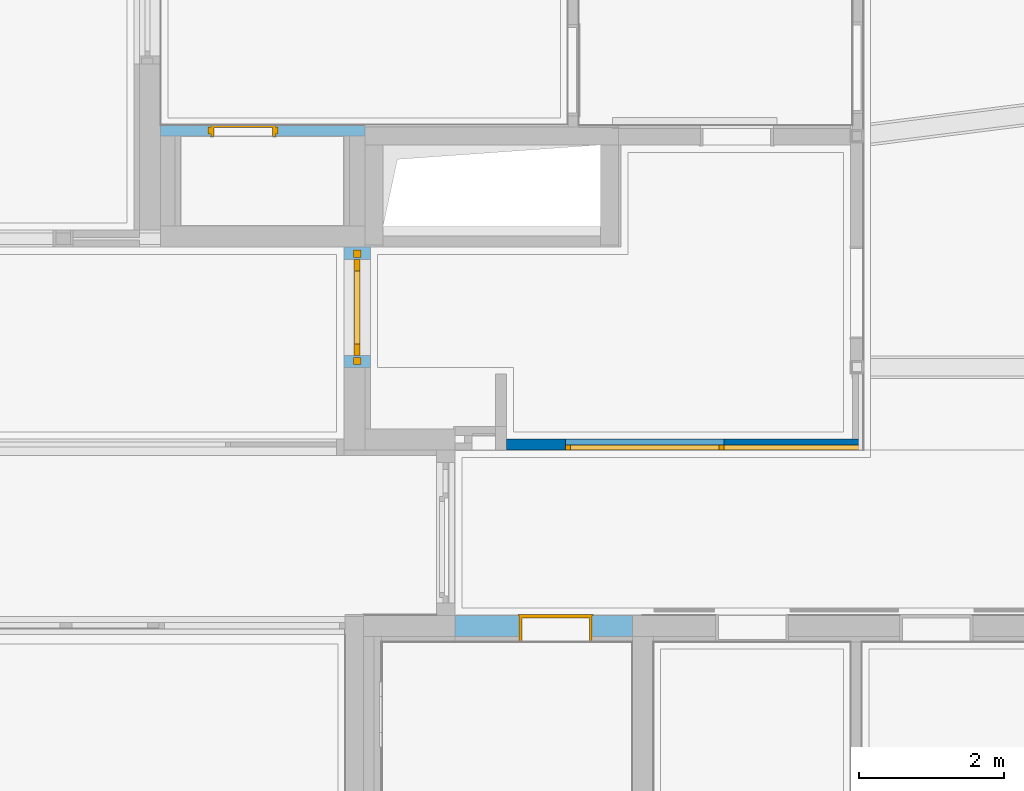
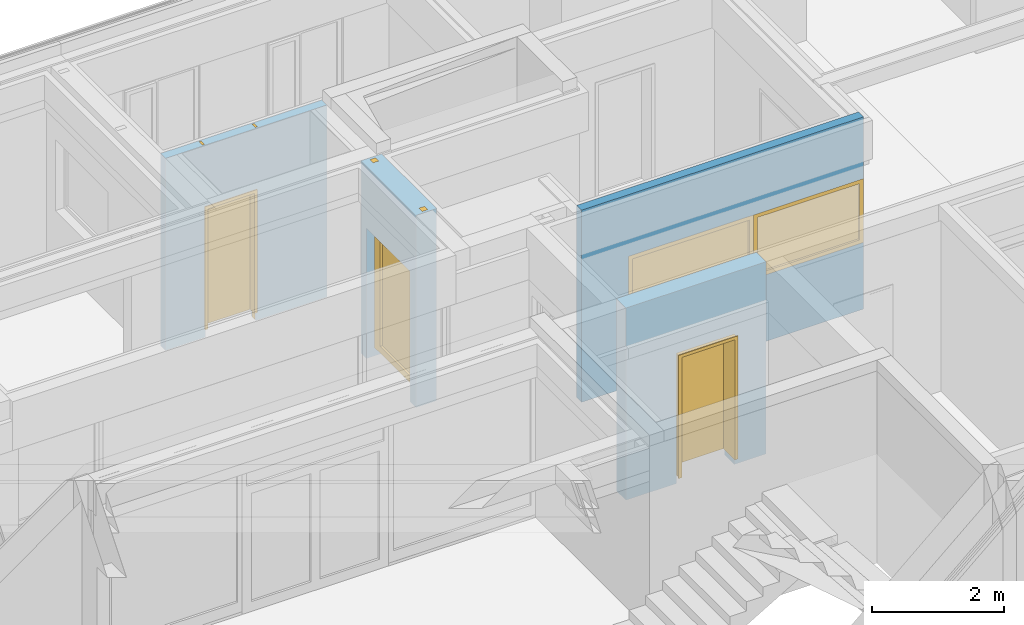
# One storey, part 87 of 222: 3 doors, 2 windows, 1 wall, 5 openings, plus 3 elements that do not belong to this part.
"""IFC4 building model written with IfcOpenShell, lengths in metres."""

from ifc_helpers import new_model, entity, si_unit, converted_unit, derived_unit, frame, frame_2d, origin, origin_with_axes, place, context, subcontext, project, spatial, polyline, rectangle, outline, extrude, closed_shell, open_shell, faceted_brep, surface_model, source, transform, mapped, material, type_object, element, fill, save


model = new_model("IFC4")

# Units and contexts
model_context = context("Model", 3, precision=1e-05, world=origin())
body_context = subcontext(model_context, "Body", "Model", "MODEL_VIEW")
ifc_project = project(units=[si_unit("LENGTHUNIT", "METRE"), si_unit("AREAUNIT", "SQUARE_METRE"), si_unit("VOLUMEUNIT", "CUBIC_METRE"), si_unit("MASSUNIT", "GRAM", prefix="KILO"), converted_unit("PLANEANGLEUNIT", "DEGREE", entity("IfcPlaneAngleMeasure", 0.0174532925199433), si_unit("PLANEANGLEUNIT", "RADIAN"), dimensions=[0, 0, 0, 0, 0, 0, 0]), derived_unit("THERMALTRANSMITTANCEUNIT", [(si_unit("POWERUNIT", "WATT"), 1), (si_unit("THERMODYNAMICTEMPERATUREUNIT", "KELVIN"), -1), (si_unit("LENGTHUNIT", "METRE"), -2)]), derived_unit("VOLUMETRICFLOWRATEUNIT", [(si_unit("LENGTHUNIT", "METRE"), 3), (converted_unit("TIMEUNIT", "hour", entity("IfcTimeMeasure", 3600.0), si_unit("TIMEUNIT", "SECOND"), dimensions=[0, 0, 1, 0, 0, 0, 0]), -1), (si_unit("LENGTHUNIT", "METRE"), -1)])], contexts=[model_context])

# Site, building, storey
site_placement = place(None, origin())
site = spatial("IfcSite", under=ifc_project, at=site_placement, Name="Psychiatrie Neubau Wunstorf", CompositionType="ELEMENT")
building_placement = place(site_placement, origin())
building = spatial("IfcBuilding", under=site, at=building_placement, Name="Neubau H2 Stationsgebäude", CompositionType="ELEMENT")
storey_placement = place(building_placement, frame((0.0, 0.0, 3.6)))
storey = spatial("IfcBuildingStorey", under=building, at=storey_placement, Name="H2 Ebene +1", CompositionType="ELEMENT", Elevation=3.6)

# Wall, opening, door
ifc_material_1 = material(Name="WI-LB")
wall_1_placement = place(storey_placement, frame((58.550000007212, 7.29999969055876, 0.0), z_axis=(0.0, 0.0, 1.0), x_axis=(-1.0, 0.0, 0.0)))
wall_1 = element("IfcWall", 1, at=wall_1_placement, inside=storey, material=ifc_material_1, context=body_context, shape_type="SweptSolid", body=[
    extrude(rectangle(XDim=2.81749999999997, YDim=0.15, at=frame_2d((1.40874999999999, 0.075), x_axis=(1.0, 0.0))), origin_with_axes(), (0.0, 0.0, 1.0), 3.55),
])
opening_1_placement = place(wall_1_placement, frame((2.12049999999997, 0.15, 0.0), z_axis=(0.0, -1.0, 0.0), x_axis=(0.0, 0.0, 1.0)))
opening_1 = element("IfcOpeningElement", 2, at=opening_1_placement, cuts=wall_1, Name="Türöffnung", ObjectType="Opening", context=body_context, shape_type="SweptSolid", body=[
    extrude(outline(polyline([(2.41, 0.885), (2.41, 0.0), (0.0, 0.0), (0.0, 0.885), (2.41, 0.885)])), origin_with_axes(), (0.0, 0.0, 1.0), 0.15),
])
ifc_material_2 = material(Name="TI-1F-UZ-D-N")
door_type_1 = type_object("IfcDoorType", Name="SMT", OperationType="SINGLE_SWING_RIGHT", ParameterTakesPrecedence=False, PredefinedType="DOOR")
shared_shape_1 = source(origin_with_axes(), body_context, "Body", "Brep", [
    faceted_brep([(-0.04, 0.025, 0.0), (0.0, 0.025, 0.0), (0.0, 0.125, 0.0), (-0.04, 0.125, 0.0), (-0.04, 0.125, 3.55), (0.0, 0.125, 3.55), (0.0, 0.025, 3.55), (-0.04, 0.025, 3.55)], [[[0, 1, 2, 3]], [[4, 5, 6, 7]], [[3, 4, 7, 0]], [[2, 5, 4, 3]], [[1, 6, 5, 2]], [[0, 7, 6, 1]]], orient=[[False], [False], [False], [False], [False], [False]]),
    faceted_brep([(0.885, 0.025, 0.0), (0.925, 0.025, 0.0), (0.925, 0.125, 0.0), (0.885, 0.125, 0.0), (0.885, 0.125, 3.55), (0.925, 0.125, 3.55), (0.925, 0.025, 3.55), (0.885, 0.025, 3.55)], [[[0, 1, 2, 3]], [[4, 5, 6, 7]], [[3, 4, 7, 0]], [[2, 5, 4, 3]], [[1, 6, 5, 2]], [[0, 7, 6, 1]]], orient=[[False], [False], [False], [False], [False], [False]]),
    faceted_brep([(0.0, 0.025, 2.41), (0.885, 0.025, 2.41), (0.885, 0.125, 2.41), (0.0, 0.125, 2.41), (0.0, 0.125, 2.45), (0.885, 0.125, 2.45), (0.885, 0.025, 2.45), (0.0, 0.025, 2.45)], [[[0, 1, 2, 3]], [[4, 5, 6, 7]], [[3, 4, 7, 0]], [[2, 5, 4, 3]], [[1, 6, 5, 2]], [[0, 7, 6, 1]]], orient=[[False], [False], [False], [False], [False], [False]]),
])
shared_shape_2 = source(origin_with_axes(), body_context, "Body", "Brep", [
    faceted_brep([(0.0, -0.015, 2.41), (0.04, -0.015, 2.41), (0.04, -0.015, 0.15), (0.0, -0.015, 0.15), (0.0, 0.165, 0.15), (0.04, 0.165, 0.15), (0.04, 0.165, 2.41), (0.0, 0.165, 2.41)], [[[0, 1, 2, 3]], [[4, 5, 6, 7]], [[3, 4, 7, 0]], [[2, 5, 4, 3]], [[1, 6, 5, 2]], [[0, 7, 6, 1]]], orient=[[False], [False], [False], [False], [False], [False]]),
    faceted_brep([(0.0, -0.015, 2.425), (0.0, -0.015, 0.15), (-0.015, -0.015, 0.15), (-0.015, -0.015, 2.425), (0.0, 0.0, 0.15), (0.0, 0.0, 2.425), (-0.015, 0.0, 2.425), (-0.015, 0.0, 0.15)], [[[0, 1, 2, 3]], [[4, 5, 6, 7]], [[1, 0, 5, 4]], [[2, 1, 4, 7]], [[3, 2, 7, 6]], [[0, 3, 6, 5]]], orient=[[False], [False], [False], [False], [False], [False]]),
    faceted_brep([(0.0, 0.15, 2.425), (0.0, 0.15, 0.15), (-0.015, 0.15, 0.15), (-0.015, 0.15, 2.425), (0.0, 0.165, 0.15), (0.0, 0.165, 2.425), (-0.015, 0.165, 2.425), (-0.015, 0.165, 0.15)], [[[0, 1, 2, 3]], [[4, 5, 6, 7]], [[1, 0, 5, 4]], [[2, 1, 4, 7]], [[3, 2, 7, 6]], [[0, 3, 6, 5]]], orient=[[False], [False], [False], [False], [False], [False]]),
    faceted_brep([(0.845, -0.015, 2.41), (0.885, -0.015, 2.41), (0.885, -0.015, 0.15), (0.845, -0.015, 0.15), (0.845, 0.165, 0.15), (0.885, 0.165, 0.15), (0.885, 0.165, 2.41), (0.845, 0.165, 2.41)], [[[0, 1, 2, 3]], [[4, 5, 6, 7]], [[3, 4, 7, 0]], [[2, 5, 4, 3]], [[1, 6, 5, 2]], [[0, 7, 6, 1]]], orient=[[False], [False], [False], [False], [False], [False]]),
    faceted_brep([(0.885, -0.015, 2.425), (0.9, -0.015, 2.425), (0.9, -0.015, 0.15), (0.885, -0.015, 0.15), (0.885, 0.0, 0.15), (0.9, 0.0, 0.15), (0.9, 0.0, 2.425), (0.885, 0.0, 2.425)], [[[0, 1, 2, 3]], [[4, 5, 6, 7]], [[3, 4, 7, 0]], [[2, 5, 4, 3]], [[1, 6, 5, 2]], [[0, 7, 6, 1]]], orient=[[False], [False], [False], [False], [False], [False]]),
    faceted_brep([(0.885, 0.15, 2.425), (0.9, 0.15, 2.425), (0.9, 0.15, 0.15), (0.885, 0.15, 0.15), (0.885, 0.165, 0.15), (0.9, 0.165, 0.15), (0.9, 0.165, 2.425), (0.885, 0.165, 2.425)], [[[0, 1, 2, 3]], [[4, 5, 6, 7]], [[3, 4, 7, 0]], [[2, 5, 4, 3]], [[1, 6, 5, 2]], [[0, 7, 6, 1]]], orient=[[False], [False], [False], [False], [False], [False]]),
    faceted_brep([(0.04, -0.015, 2.41), (0.845, -0.015, 2.41), (0.845, -0.015, 2.37), (0.04, -0.015, 2.37), (0.04, 0.165, 2.37), (0.845, 0.165, 2.37), (0.845, 0.165, 2.41), (0.04, 0.165, 2.41)], [[[0, 1, 2, 3]], [[4, 5, 6, 7]], [[3, 4, 7, 0]], [[2, 5, 4, 3]], [[1, 6, 5, 2]], [[0, 7, 6, 1]]], orient=[[False], [False], [False], [False], [False], [False]]),
    faceted_brep([(0.0, -0.015, 2.425), (0.885, -0.015, 2.425), (0.885, -0.015, 2.41), (0.0, -0.015, 2.41), (0.0, 0.0, 2.41), (0.885, 0.0, 2.41), (0.885, 0.0, 2.425), (0.0, 0.0, 2.425)], [[[0, 1, 2, 3]], [[4, 5, 6, 7]], [[3, 4, 7, 0]], [[2, 5, 4, 3]], [[1, 6, 5, 2]], [[0, 7, 6, 1]]], orient=[[False], [False], [False], [False], [False], [False]]),
    faceted_brep([(0.0, 0.15, 2.425), (0.885, 0.15, 2.425), (0.885, 0.15, 2.41), (0.0, 0.15, 2.41), (0.0, 0.165, 2.41), (0.885, 0.165, 2.41), (0.885, 0.165, 2.425), (0.0, 0.165, 2.425)], [[[0, 1, 2, 3]], [[4, 5, 6, 7]], [[3, 4, 7, 0]], [[2, 5, 4, 3]], [[1, 6, 5, 2]], [[0, 7, 6, 1]]], orient=[[False], [False], [False], [False], [False], [False]]),
    faceted_brep([(0.025, 0.116, 2.385), (0.86, 0.116, 2.385), (0.86, 0.116, 0.15), (0.025, 0.116, 0.15), (0.025, 0.166, 0.15), (0.86, 0.166, 0.15), (0.86, 0.166, 2.385), (0.025, 0.166, 2.385)], [[[0, 1, 2, 3]], [[4, 5, 6, 7]], [[3, 4, 7, 0]], [[2, 5, 4, 3]], [[1, 6, 5, 2]], [[0, 7, 6, 1]]], orient=[[False], [False], [False], [False], [False], [False]]),
])
door_1_placement = place(opening_1_placement, frame((0.0, 0.0, 0.0), z_axis=(1.0, 0.0, 0.0), x_axis=(0.0, 1.0, 0.0)))
door_1 = element("IfcDoor", 3, at=door_1_placement, inside=storey, type_object=door_type_1, material=ifc_material_2, Name="SMT", OverallHeight=2.41, OverallWidth=0.885, context=body_context, shape_type="MappedRepresentation", body=[
    mapped(shared_shape_1, transform((0.0, 0.0, 0.0), x_axis=(1.0, 0.0, 0.0), y_axis=(0.0, 1.0, 0.0), z_axis=(0.0, 0.0, 1.0), scale=1.0)),
    mapped(shared_shape_2, transform((0.0, 0.0, 0.0), x_axis=(1.0, 0.0, 0.0), y_axis=(0.0, 1.0, 0.0), z_axis=(0.0, 0.0, 1.0), scale=1.0)),
])
fill(opening_1, door_1)

# Wall, openings, windows
ifc_material_3 = material(Name="WI-LB")
wall_2_placement = place(storey_placement, frame((60.5000124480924, 2.81762409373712, 0.0)))
wall_2 = element("IfcWall", 4, at=wall_2_placement, inside=storey, material=ifc_material_3, context=body_context, shape_type="Brep", body=[
    faceted_brep([(4.92498388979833, 0.15, 1.23), (4.92498388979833, 0.0, 1.23), (4.77498388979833, 0.0, 1.23), (4.77498388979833, 0.15, 1.23), (4.77498388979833, 0.15, 2.41), (4.77498388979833, 0.0, 2.41), (4.92498388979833, 0.0, 2.41), (4.92498388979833, 0.15, 2.41), (4.92499633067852, 0.0, 0.0), (0.0, 0.0, 0.0), (0.0, 0.0, 3.55), (4.92499633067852, 0.0, 3.55), (0.0, 0.15, 0.0), (0.0, 0.15, 3.55), (4.92499633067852, 0.15, 0.0), (4.92499633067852, 0.15, 3.55)], [[[0, 1, 2, 3]], [[4, 5, 6, 7]], [[4, 3, 2, 5]], [[6, 1, 0, 7]], [[8, 9, 10, 11], [1, 6, 5, 2]], [[9, 12, 13, 10]], [[12, 14, 15, 13], [3, 4, 7, 0]], [[14, 8, 11, 15]], [[15, 11, 10, 13]], [[8, 14, 12, 9]]], orient=[[False], [False], [False], [False], [False, False], [False], [False, False], [False], [False], [False]]),
])
opening_2_placement = place(wall_2_placement, frame((4.92499633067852, 0.15, 1.23), z_axis=(0.0, -1.0, 0.0), x_axis=(0.0, 0.0, 1.0)))
opening_2 = element("IfcOpeningElement", 5, at=opening_2_placement, cuts=wall_2, Name="Fensteröffnung", ObjectType="Opening", context=body_context, shape_type="SweptSolid", body=[
    extrude(outline(polyline([(1.18, 1.92301244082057), (1.18, 0.0), (0.0, 0.0), (0.0, 1.92301244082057), (1.18, 1.92301244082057)])), origin_with_axes(), (0.0, 0.0, 1.0), 0.15),
])
opening_3_placement = place(wall_2_placement, frame((3.00198388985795, 0.15, 0.9), z_axis=(0.0, -1.0, 0.0), x_axis=(0.0, 0.0, 1.0)))
opening_3 = element("IfcOpeningElement", 6, at=opening_3_placement, cuts=wall_2, Name="Fensteröffnung", ObjectType="Opening", context=body_context, shape_type="SweptSolid", body=[
    extrude(outline(polyline([(1.51, 2.185), (1.51, 0.0), (0.0, 0.0), (0.0, 2.185), (1.51, 2.185)])), origin_with_axes(), (0.0, 0.0, 1.0), 0.15),
])
shared_shape_3 = source(origin_with_axes(), body_context, "Body", "SurfaceModel", [
    surface_model("IfcShellBasedSurfaceModel", [(0.0, 0.0, 1.18), (0.07, 0.0, 1.18), (0.07, 0.0, 0.0), (0.0, 0.0, 0.0), (0.0, 0.0700000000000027, 0.0), (0.07, 0.0700000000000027, 0.0), (0.07, 0.0700000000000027, 1.18), (0.0, 0.0700000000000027, 1.18)], [closed_shell([[[0, 1, 2, 3]], [[4, 5, 6, 7]], [[3, 4, 7, 0]], [[2, 5, 4, 3]], [[1, 6, 5, 2]], [[0, 7, 6, 1]]], orient=[[False], [False], [False], [False], [False], [False]])]),
    surface_model("IfcShellBasedSurfaceModel", [(1.85301244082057, 0.0, 1.18), (1.92301244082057, 0.0, 1.18), (1.92301244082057, 0.0, 0.0), (1.85301244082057, 0.0, 0.0), (1.85301244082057, 0.0700000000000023, 0.0), (1.92301244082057, 0.0700000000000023, 0.0), (1.92301244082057, 0.0700000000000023, 1.18), (1.85301244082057, 0.0700000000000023, 1.18)], [closed_shell([[[0, 1, 2, 3]], [[4, 5, 6, 7]], [[3, 4, 7, 0]], [[2, 5, 4, 3]], [[1, 6, 5, 2]], [[0, 7, 6, 1]]], orient=[[False], [False], [False], [False], [False], [False]])]),
    surface_model("IfcShellBasedSurfaceModel", [(0.07, 0.0, 0.07), (1.85301244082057, 0.0, 0.07), (1.85301244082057, 0.0, 0.0), (0.07, 0.0, 0.0), (0.07, 0.0700000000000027, 0.0), (1.85301244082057, 0.0700000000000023, 0.0), (1.85301244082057, 0.0700000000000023, 0.07), (0.07, 0.0700000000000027, 0.07)], [closed_shell([[[0, 1, 2, 3]], [[4, 5, 6, 7]], [[3, 4, 7, 0]], [[2, 5, 4, 3]], [[1, 6, 5, 2]], [[0, 7, 6, 1]]], orient=[[False], [False], [False], [False], [False], [False]])]),
    surface_model("IfcShellBasedSurfaceModel", [(0.07, 0.0, 1.18), (1.85301244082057, 0.0, 1.18), (1.85301244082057, 0.0, 1.11), (0.07, 0.0, 1.11), (0.07, 0.0700000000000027, 1.11), (1.85301244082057, 0.0700000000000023, 1.11), (1.85301244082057, 0.0700000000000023, 1.18), (0.07, 0.0700000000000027, 1.18)], [closed_shell([[[0, 1, 2, 3]], [[4, 5, 6, 7]], [[3, 4, 7, 0]], [[2, 5, 4, 3]], [[1, 6, 5, 2]], [[0, 7, 6, 1]]], orient=[[False], [False], [False], [False], [False], [False]])]),
    surface_model("IfcShellBasedSurfaceModel", [(0.07, 0.0350000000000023, 0.07), (0.07, 0.0350000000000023, 1.11), (1.85301244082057, 0.0350000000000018, 1.11), (1.85301244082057, 0.0350000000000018, 0.07)], [open_shell([[[0, 1, 2, 3]]], orient=[[False]])]),
])
window_1_placement = place(opening_2_placement, frame((0.0, 0.0, 0.08), z_axis=(1.0, 0.0, 0.0), x_axis=(0.0, 1.0, 0.0)))
window_1 = element("IfcWindow", 7, at=window_1_placement, inside=storey, Name="Fenster", OverallHeight=1.18, OverallWidth=1.92301, PartitioningType="USERDEFINED", PredefinedType="WINDOW", context=body_context, shape_type="MappedRepresentation", body=[
    mapped(shared_shape_3, transform((0.0, 0.0, 0.0), x_axis=(1.0, 0.0, 0.0), y_axis=(0.0, 1.0, 0.0), z_axis=(0.0, 0.0, 1.0), scale=1.0)),
])
fill(opening_2, window_1)
shared_shape_4 = source(origin_with_axes(), body_context, "Body", "SurfaceModel", [
    surface_model("IfcShellBasedSurfaceModel", [(0.0, 0.0, 1.51), (0.07, 0.0, 1.51), (0.07, 0.0, 0.0), (0.0, 0.0, 0.0), (0.0, 0.0700000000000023, 0.0), (0.07, 0.0700000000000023, 0.0), (0.07, 0.0700000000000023, 1.51), (0.0, 0.0700000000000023, 1.51)], [closed_shell([[[0, 1, 2, 3]], [[4, 5, 6, 7]], [[3, 4, 7, 0]], [[2, 5, 4, 3]], [[1, 6, 5, 2]], [[0, 7, 6, 1]]], orient=[[False], [False], [False], [False], [False], [False]])]),
    surface_model("IfcShellBasedSurfaceModel", [(2.115, 0.0, 1.51), (2.185, 0.0, 1.51), (2.185, 0.0, 0.0), (2.115, 0.0, 0.0), (2.115, 0.0700000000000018, 0.0), (2.185, 0.0700000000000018, 0.0), (2.185, 0.0700000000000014, 1.51), (2.115, 0.0700000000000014, 1.51)], [closed_shell([[[0, 1, 2, 3]], [[4, 5, 6, 7]], [[3, 4, 7, 0]], [[2, 5, 4, 3]], [[1, 6, 5, 2]], [[0, 7, 6, 1]]], orient=[[False], [False], [False], [False], [False], [False]])]),
    surface_model("IfcShellBasedSurfaceModel", [(0.07, 0.0, 0.07), (2.115, 0.0, 0.07), (2.115, 0.0, 0.0), (0.07, 0.0, 0.0), (0.07, 0.0700000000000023, 0.0), (2.115, 0.0700000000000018, 0.0), (2.115, 0.0700000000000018, 0.07), (0.07, 0.0700000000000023, 0.07)], [closed_shell([[[0, 1, 2, 3]], [[4, 5, 6, 7]], [[3, 4, 7, 0]], [[2, 5, 4, 3]], [[1, 6, 5, 2]], [[0, 7, 6, 1]]], orient=[[False], [False], [False], [False], [False], [False]])]),
    surface_model("IfcShellBasedSurfaceModel", [(0.07, 0.0, 1.51), (2.115, 0.0, 1.51), (2.115, 0.0, 1.44), (0.07, 0.0, 1.44), (0.07, 0.0700000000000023, 1.44), (2.115, 0.0700000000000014, 1.44), (2.115, 0.0700000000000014, 1.51), (0.07, 0.0700000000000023, 1.51)], [closed_shell([[[0, 1, 2, 3]], [[4, 5, 6, 7]], [[3, 4, 7, 0]], [[2, 5, 4, 3]], [[1, 6, 5, 2]], [[0, 7, 6, 1]]], orient=[[False], [False], [False], [False], [False], [False]])]),
    surface_model("IfcShellBasedSurfaceModel", [(0.07, 0.0350000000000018, 0.07), (0.07, 0.0350000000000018, 1.44), (2.115, 0.0350000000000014, 1.44), (2.115, 0.0350000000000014, 0.07)], [open_shell([[[0, 1, 2, 3]]], orient=[[False]])]),
])
window_2_placement = place(opening_3_placement, frame((0.0, 0.0, 0.08), z_axis=(1.0, 0.0, 0.0), x_axis=(0.0, 1.0, 0.0)))
window_2 = element("IfcWindow", 8, at=window_2_placement, inside=storey, Name="Fenster", OverallHeight=1.51, OverallWidth=2.185, PartitioningType="USERDEFINED", PredefinedType="WINDOW", context=body_context, shape_type="MappedRepresentation", body=[
    mapped(shared_shape_4, transform((0.0, 0.0, 0.0), x_axis=(1.0, 0.0, 0.0), y_axis=(0.0, 1.0, 0.0), z_axis=(0.0, 0.0, 1.0), scale=1.0)),
])
fill(opening_3, window_2)

# Wall, opening, door
ifc_material_4 = material(Name="WI-LW 60")
wall_3_placement = place(storey_placement, frame((58.260000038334, 5.61749969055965, 0.0), z_axis=(0.0, 0.0, 1.0), x_axis=(0.0, -1.0, 0.0)))
wall_3 = element("IfcWall", 9, at=wall_3_placement, inside=storey, material=ifc_material_4, context=body_context, shape_type="SweptSolid", body=[
    extrude(rectangle(XDim=1.665, YDim=0.365, at=frame_2d((0.832500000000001, 0.1825), x_axis=(1.0, 0.0))), origin_with_axes(), (0.0, 0.0, 1.0), 3.55),
])
opening_4_placement = place(wall_3_placement, frame((1.49502242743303, 0.365, 0.0), z_axis=(0.0, -1.0, 0.0), x_axis=(0.0, 0.0, 1.0)))
opening_4 = element("IfcOpeningElement", 10, at=opening_4_placement, cuts=wall_3, Name="Türöffnung", ObjectType="Opening", context=body_context, shape_type="SweptSolid", body=[
    extrude(outline(polyline([(2.41, 1.325), (2.41, 0.0), (0.0, 0.0), (0.0, 1.325), (2.41, 1.325)])), origin_with_axes(), (0.0, 0.0, 1.0), 0.365),
])
ifc_material_5 = material(Name="TI-1F-AG-D")
shared_shape_5 = source(origin_with_axes(), body_context, "Body", "Brep", [
    faceted_brep([(-0.127499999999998, -0.0100000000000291, 0.0), (-0.0274999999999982, -0.0100000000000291, 0.0), (-0.0274999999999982, 0.0899999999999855, 0.0), (-0.127499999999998, 0.0899999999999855, 0.0), (-0.127499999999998, 0.0899999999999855, 3.55), (-0.0274999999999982, 0.0899999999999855, 3.55), (-0.0274999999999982, -0.0100000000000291, 3.55), (-0.127499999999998, -0.0100000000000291, 3.55)], [[[0, 1, 2, 3]], [[4, 5, 6, 7]], [[3, 4, 7, 0]], [[2, 5, 4, 3]], [[1, 6, 5, 2]], [[0, 7, 6, 1]]], orient=[[False], [False], [False], [False], [False], [False]]),
    faceted_brep([(1.3525, -0.0100000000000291, 0.0), (1.4525, -0.0100000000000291, 0.0), (1.4525, 0.0899999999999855, 0.0), (1.3525, 0.0899999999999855, 0.0), (1.3525, 0.0899999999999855, 3.55), (1.4525, 0.0899999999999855, 3.55), (1.4525, -0.0100000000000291, 3.55), (1.3525, -0.0100000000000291, 3.55)], [[[0, 1, 2, 3]], [[4, 5, 6, 7]], [[3, 4, 7, 0]], [[2, 5, 4, 3]], [[1, 6, 5, 2]], [[0, 7, 6, 1]]], orient=[[False], [False], [False], [False], [False], [False]]),
    faceted_brep([(-0.0274999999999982, -0.0100000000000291, 2.4375), (1.3525, -0.0100000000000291, 2.4375), (1.3525, 0.0899999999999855, 2.4375), (-0.0274999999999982, 0.0899999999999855, 2.4375), (-0.0274999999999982, 0.0899999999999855, 2.5375), (1.3525, 0.0899999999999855, 2.5375), (1.3525, -0.0100000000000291, 2.5375), (-0.0274999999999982, -0.0100000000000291, 2.5375)], [[[0, 1, 2, 3]], [[4, 5, 6, 7]], [[3, 4, 7, 0]], [[2, 5, 4, 3]], [[1, 6, 5, 2]], [[0, 7, 6, 1]]], orient=[[False], [False], [False], [False], [False], [False]]),
])
shared_shape_6 = source(origin_with_axes(), body_context, "Body", "SurfaceModel", [
    surface_model("IfcShellBasedSurfaceModel", [(1.325, 0.0, 2.41), (1.325, 0.0, 0.15), (1.245, 0.0, 0.15), (1.245, 0.0, 2.41), (1.325, 0.0799999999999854, 0.15), (1.325, 0.0799999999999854, 2.41), (1.245, 0.0799999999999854, 2.41), (1.245, 0.0799999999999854, 0.15)], [closed_shell([[[0, 1, 2, 3]], [[4, 5, 6, 7]], [[1, 0, 5, 4]], [[2, 1, 4, 7]], [[3, 2, 7, 6]], [[0, 3, 6, 5]]], orient=[[False], [False], [False], [False], [False], [False]])]),
    surface_model("IfcShellBasedSurfaceModel", [(0.0800000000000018, 0.0, 2.41), (0.0800000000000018, 0.0, 0.15), (0.0, 0.0, 0.15), (0.0, 0.0, 2.41), (0.0800000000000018, 0.0799999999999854, 0.15), (0.0800000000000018, 0.0799999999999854, 2.41), (0.0, 0.0799999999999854, 2.41), (0.0, 0.0799999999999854, 0.15)], [closed_shell([[[0, 1, 2, 3]], [[4, 5, 6, 7]], [[1, 0, 5, 4]], [[2, 1, 4, 7]], [[3, 2, 7, 6]], [[0, 3, 6, 5]]], orient=[[False], [False], [False], [False], [False], [False]])]),
    surface_model("IfcShellBasedSurfaceModel", [(1.245, 0.0, 2.41), (1.245, 0.0, 2.33), (0.0800000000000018, 0.0, 2.33), (0.0800000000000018, 0.0, 2.41), (1.245, 0.0799999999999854, 2.33), (1.245, 0.0799999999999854, 2.41), (0.0800000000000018, 0.0799999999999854, 2.41), (0.0800000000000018, 0.0799999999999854, 2.33)], [closed_shell([[[0, 1, 2, 3]], [[4, 5, 6, 7]], [[1, 0, 5, 4]], [[2, 1, 4, 7]], [[3, 2, 7, 6]], [[0, 3, 6, 5]]], orient=[[False], [False], [False], [False], [False], [False]])]),
    surface_model("IfcShellBasedSurfaceModel", [(1.245, 0.000999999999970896, 2.33), (1.245, 0.000999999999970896, 0.15), (1.165, 0.000999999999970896, 0.15), (1.165, 0.000999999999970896, 2.33), (1.245, 0.0809999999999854, 0.15), (1.245, 0.0809999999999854, 2.33), (1.165, 0.0809999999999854, 2.33), (1.165, 0.0809999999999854, 0.15)], [closed_shell([[[0, 1, 2, 3]], [[4, 5, 6, 7]], [[1, 0, 5, 4]], [[2, 1, 4, 7]], [[3, 2, 7, 6]], [[0, 3, 6, 5]]], orient=[[False], [False], [False], [False], [False], [False]])]),
    surface_model("IfcShellBasedSurfaceModel", [(0.160000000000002, 0.000999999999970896, 2.33), (0.160000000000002, 0.000999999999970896, 0.15), (0.0800000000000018, 0.000999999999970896, 0.15), (0.0800000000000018, 0.000999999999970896, 2.33), (0.160000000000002, 0.0809999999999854, 0.15), (0.160000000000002, 0.0809999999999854, 2.33), (0.0800000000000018, 0.0809999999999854, 2.33), (0.0800000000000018, 0.0809999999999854, 0.15)], [closed_shell([[[0, 1, 2, 3]], [[4, 5, 6, 7]], [[1, 0, 5, 4]], [[2, 1, 4, 7]], [[3, 2, 7, 6]], [[0, 3, 6, 5]]], orient=[[False], [False], [False], [False], [False], [False]])]),
    surface_model("IfcShellBasedSurfaceModel", [(1.165, 0.000999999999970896, 0.27), (1.165, 0.000999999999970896, 0.15), (0.160000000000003, 0.000999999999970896, 0.15), (0.160000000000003, 0.000999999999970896, 0.27), (1.165, 0.0809999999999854, 0.15), (1.165, 0.0809999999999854, 0.27), (0.160000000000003, 0.0809999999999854, 0.27), (0.160000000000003, 0.0809999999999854, 0.15)], [closed_shell([[[0, 1, 2, 3]], [[4, 5, 6, 7]], [[1, 0, 5, 4]], [[2, 1, 4, 7]], [[3, 2, 7, 6]], [[0, 3, 6, 5]]], orient=[[False], [False], [False], [False], [False], [False]])]),
    surface_model("IfcShellBasedSurfaceModel", [(1.165, 0.000999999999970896, 2.33), (1.165, 0.000999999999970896, 2.25), (0.160000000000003, 0.000999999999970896, 2.25), (0.160000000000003, 0.000999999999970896, 2.33), (1.165, 0.0809999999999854, 2.25), (1.165, 0.0809999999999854, 2.33), (0.160000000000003, 0.0809999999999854, 2.33), (0.160000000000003, 0.0809999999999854, 2.25)], [closed_shell([[[0, 1, 2, 3]], [[4, 5, 6, 7]], [[1, 0, 5, 4]], [[2, 1, 4, 7]], [[3, 2, 7, 6]], [[0, 3, 6, 5]]], orient=[[False], [False], [False], [False], [False], [False]])]),
    surface_model("IfcShellBasedSurfaceModel", [(1.165, 0.0409999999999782, 0.27), (0.160000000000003, 0.0409999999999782, 0.27), (0.160000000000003, 0.0409999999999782, 2.25), (1.165, 0.0409999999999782, 2.25)], [open_shell([[[0, 1, 2, 3]]], orient=[[False]])]),
])
door_2_placement = place(opening_4_placement, frame((0.0, 1.325, 0.222), z_axis=(1.0, 0.0, 0.0), x_axis=(0.0, -1.0, 0.0)))
door_2 = element("IfcDoor", 11, at=door_2_placement, inside=storey, material=ifc_material_5, Name="SMT", OperationType="USERDEFINED", OverallHeight=2.41, OverallWidth=1.325, PredefinedType="DOOR", context=body_context, shape_type="MappedRepresentation", body=[
    mapped(shared_shape_5, transform((0.0, 0.0, 0.0), x_axis=(1.0, 0.0, 0.0), y_axis=(0.0, 1.0, 0.0), z_axis=(0.0, 0.0, 1.0), scale=1.0)),
    mapped(shared_shape_6, transform((0.0, 0.0, 0.0), x_axis=(1.0, 0.0, 0.0), y_axis=(0.0, 1.0, 0.0), z_axis=(0.0, 0.0, 1.0), scale=1.0)),
])
fill(opening_4, door_2)

ifc_material_6 = material(Name="WI-HW 60")
wall_4_placement = place(storey_placement, frame((62.239793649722, 0.536002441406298, 0.0), z_axis=(0.0, 0.0, 1.0), x_axis=(-1.0, 9.27874096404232e-17, 0.0)))
wall_4 = element("IfcWall", 12, at=wall_4_placement, inside=storey, material=ifc_material_6, context=body_context, shape_type="SweptSolid", body=[
    extrude(rectangle(XDim=2.45047982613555, YDim=0.29, at=frame_2d((1.22523991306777, 0.145), x_axis=(1.0, 0.0))), origin_with_axes(), (0.0, 0.0, 1.0), 3.55),
])
opening_5_placement = place(wall_4_placement, frame((1.56556807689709, 0.289999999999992, 0.0), z_axis=(0.0, -1.0, 0.0), x_axis=(0.0, 0.0, 1.0)))
opening_5 = element("IfcOpeningElement", 13, at=opening_5_placement, cuts=wall_4, Name="Türöffnung", ObjectType="Opening", context=body_context, shape_type="SweptSolid", body=[
    extrude(outline(polyline([(2.41, 1.01), (2.41, 0.0), (0.0, 0.0), (0.0, 1.01), (2.41, 1.01)])), origin_with_axes(), (0.0, 0.0, 1.0), 0.29),
])
ifc_material_7 = material(Name="TI-1F-UZ-D-N")
door_type_2 = type_object("IfcDoorType", Name="SMT", OperationType="SINGLE_SWING_RIGHT", ParameterTakesPrecedence=False, PredefinedType="DOOR")
shared_shape_7 = source(origin_with_axes(), body_context, "Body", "Brep", [
    faceted_brep([(0.0, -0.0150000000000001, 2.41), (0.04, -0.0150000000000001, 2.41), (0.04, -0.0149999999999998, 0.15), (0.0, -0.0149999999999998, 0.15), (0.0, 0.38, 0.15), (0.04, 0.38, 0.15), (0.04, 0.38, 2.41), (0.0, 0.38, 2.41)], [[[0, 1, 2, 3]], [[4, 5, 6, 7]], [[3, 4, 7, 0]], [[2, 5, 4, 3]], [[1, 6, 5, 2]], [[0, 7, 6, 1]]], orient=[[False], [False], [False], [False], [False], [False]]),
    faceted_brep([(0.0, -0.0150000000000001, 2.425), (0.0, -0.0149999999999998, 0.15), (-0.015, -0.0149999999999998, 0.15), (-0.015, -0.0150000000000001, 2.425), (0.0, 0.0, 0.15), (0.0, 0.0, 2.425), (-0.015, 0.0, 2.425), (-0.015, 0.0, 0.15)], [[[0, 1, 2, 3]], [[4, 5, 6, 7]], [[1, 0, 5, 4]], [[2, 1, 4, 7]], [[3, 2, 7, 6]], [[0, 3, 6, 5]]], orient=[[False], [False], [False], [False], [False], [False]]),
    faceted_brep([(0.0, 0.365, 2.425), (0.0, 0.365, 0.15), (-0.015, 0.365, 0.15), (-0.015, 0.365, 2.425), (0.0, 0.38, 0.15), (0.0, 0.38, 2.425), (-0.015, 0.38, 2.425), (-0.015, 0.38, 0.15)], [[[0, 1, 2, 3]], [[4, 5, 6, 7]], [[1, 0, 5, 4]], [[2, 1, 4, 7]], [[3, 2, 7, 6]], [[0, 3, 6, 5]]], orient=[[False], [False], [False], [False], [False], [False]]),
    faceted_brep([(0.97, -0.0150000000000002, 2.41), (1.01, -0.0150000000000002, 2.41), (1.01, -0.0149999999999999, 0.15), (0.97, -0.0149999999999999, 0.15), (0.97, 0.38, 0.15), (1.01, 0.38, 0.15), (1.01, 0.38, 2.41), (0.97, 0.38, 2.41)], [[[0, 1, 2, 3]], [[4, 5, 6, 7]], [[3, 4, 7, 0]], [[2, 5, 4, 3]], [[1, 6, 5, 2]], [[0, 7, 6, 1]]], orient=[[False], [False], [False], [False], [False], [False]]),
    faceted_brep([(1.01, -0.0150000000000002, 2.425), (1.025, -0.0150000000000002, 2.425), (1.025, -0.0149999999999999, 0.15), (1.01, -0.0149999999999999, 0.15), (1.01, 0.0, 0.15), (1.025, 0.0, 0.15), (1.025, 0.0, 2.425), (1.01, 0.0, 2.425)], [[[0, 1, 2, 3]], [[4, 5, 6, 7]], [[3, 4, 7, 0]], [[2, 5, 4, 3]], [[1, 6, 5, 2]], [[0, 7, 6, 1]]], orient=[[False], [False], [False], [False], [False], [False]]),
    faceted_brep([(1.01, 0.365, 2.425), (1.025, 0.365, 2.425), (1.025, 0.365, 0.15), (1.01, 0.365, 0.15), (1.01, 0.38, 0.15), (1.025, 0.38, 0.15), (1.025, 0.38, 2.425), (1.01, 0.38, 2.425)], [[[0, 1, 2, 3]], [[4, 5, 6, 7]], [[3, 4, 7, 0]], [[2, 5, 4, 3]], [[1, 6, 5, 2]], [[0, 7, 6, 1]]], orient=[[False], [False], [False], [False], [False], [False]]),
    faceted_brep([(0.04, -0.0150000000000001, 2.41), (0.97, -0.0150000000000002, 2.41), (0.97, -0.0150000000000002, 2.37), (0.04, -0.0150000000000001, 2.37), (0.04, 0.38, 2.37), (0.97, 0.38, 2.37), (0.97, 0.38, 2.41), (0.04, 0.38, 2.41)], [[[0, 1, 2, 3]], [[4, 5, 6, 7]], [[3, 4, 7, 0]], [[2, 5, 4, 3]], [[1, 6, 5, 2]], [[0, 7, 6, 1]]], orient=[[False], [False], [False], [False], [False], [False]]),
    faceted_brep([(0.0, -0.0150000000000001, 2.425), (1.01, -0.0150000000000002, 2.425), (1.01, -0.0150000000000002, 2.41), (0.0, -0.0150000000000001, 2.41), (0.0, 0.0, 2.41), (1.01, 0.0, 2.41), (1.01, 0.0, 2.425), (0.0, 0.0, 2.425)], [[[0, 1, 2, 3]], [[4, 5, 6, 7]], [[3, 4, 7, 0]], [[2, 5, 4, 3]], [[1, 6, 5, 2]], [[0, 7, 6, 1]]], orient=[[False], [False], [False], [False], [False], [False]]),
    faceted_brep([(0.0, 0.365, 2.425), (1.01, 0.365, 2.425), (1.01, 0.365, 2.41), (0.0, 0.365, 2.41), (0.0, 0.38, 2.41), (1.01, 0.38, 2.41), (1.01, 0.38, 2.425), (0.0, 0.38, 2.425)], [[[0, 1, 2, 3]], [[4, 5, 6, 7]], [[3, 4, 7, 0]], [[2, 5, 4, 3]], [[1, 6, 5, 2]], [[0, 7, 6, 1]]], orient=[[False], [False], [False], [False], [False], [False]]),
    faceted_brep([(0.025, 0.331, 2.385), (0.985, 0.331, 2.385), (0.985, 0.331, 0.15), (0.025, 0.331, 0.15), (0.025, 0.381, 0.15), (0.985, 0.381, 0.15), (0.985, 0.381, 2.385), (0.025, 0.381, 2.385)], [[[0, 1, 2, 3]], [[4, 5, 6, 7]], [[3, 4, 7, 0]], [[2, 5, 4, 3]], [[1, 6, 5, 2]], [[0, 7, 6, 1]]], orient=[[False], [False], [False], [False], [False], [False]]),
])
door_3_placement = place(opening_5_placement, frame((0.0, 0.0, -0.075), z_axis=(1.0, 0.0, 0.0), x_axis=(0.0, 1.0, 9.27874096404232e-17)))
door_3 = element("IfcDoor", 14, at=door_3_placement, inside=storey, type_object=door_type_2, material=ifc_material_7, Name="SMT", OverallHeight=2.41, OverallWidth=1.01, context=body_context, shape_type="MappedRepresentation", body=[
    mapped(shared_shape_7, transform((0.0, 0.0, 0.0), x_axis=(1.0, 0.0, 0.0), y_axis=(0.0, 1.0, 0.0), z_axis=(0.0, 0.0, 1.0), scale=1.0)),
])
fill(opening_5, door_3)

save(model, "model.ifc")
